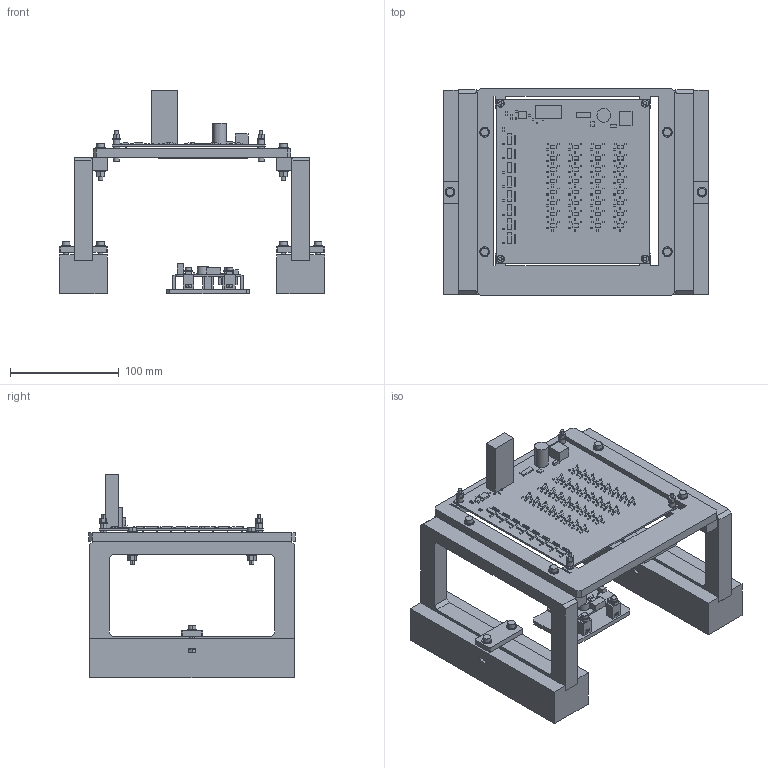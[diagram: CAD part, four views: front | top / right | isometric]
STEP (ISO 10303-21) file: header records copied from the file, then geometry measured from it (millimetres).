
FILE_DESCRIPTION (( 'STEP AP203' ), '1' );
FILE_NAME ('Addons_8x8_receiver_100mm.step', '2026-10-22T14:09:57', ( '' ), ( '' ), 'SwSTEP 2.0', 'SolidWorks 2025', '' );
FILE_SCHEMA (( 'CONFIG_CONTROL_DESIGN' ));
Length unit declared in the file: millimetre
Products named in the file (20): REF_M3_washer; REF_tx8_electronics; REF_receiver_electronics; REF_M3x16_screw; 01_side_trestle; REF_M4x25_screw; REF_M4_nylock; REF_M4_washer; Addons_8x8_receiver_100mm; REF_M4_plain_nut; 05_receiver_flat_tray; 09_riser_bridge; 04_m3_rear_sleeve_6x5; 08_fixed_riser_30; REF_M3x25_screw; 03_tx_carrier_8x8; REF_M4x30_screw; REF_M3_plain_nut; 06_receiver_edge_clip; REF_M3_nylock
Assembly tree (74 placements, depth 2):
  Addons_8x8_receiver_100mm
    01_side_trestle  x2
    03_tx_carrier_8x8
    REF_tx8_electronics
    04_m3_rear_sleeve_6x5  x4
    REF_M3x25_screw  x4
    REF_M3_washer  x12
    REF_M3_nylock  x4
    REF_M4x30_screw  x4
    REF_M4_washer  x12
    REF_M4_nylock  x4
    08_fixed_riser_30  x2
    09_riser_bridge  x2
    REF_M4x25_screw  x4
    REF_M4_plain_nut  x4
    05_receiver_flat_tray
    REF_receiver_electronics
    06_receiver_edge_clip  x4
    REF_M3x16_screw  x4
    REF_M3_plain_nut  x4
Bounding box: 244 x 190 x 186.9 mm (x, y, z)
Volume: 1041155.6 mm3; surface area: 293729.3 mm2
Topology: 438 solids, 438 shells, 2852 faces, 5820 edges, 3880 vertices
Faces by surface type: plane 2420, cylinder 432
Entity records: 64694 total; most frequent: CARTESIAN_POINT 10502, DIRECTION 10238, ORIENTED_EDGE 9636, EDGE_CURVE 4818, VECTOR 4342, LINE 4342, VERTEX_POINT 3212, AXIS2_PLACEMENT_3D 2948
